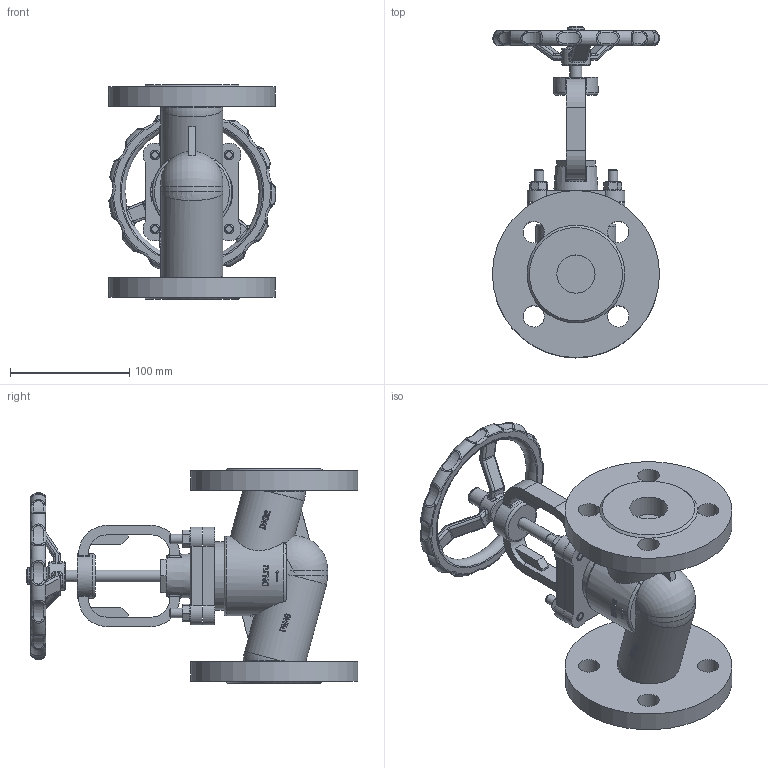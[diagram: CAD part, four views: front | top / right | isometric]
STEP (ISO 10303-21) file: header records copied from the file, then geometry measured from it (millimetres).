
FILE_DESCRIPTION(('STEP AP242'), '1');
FILE_NAME('VSO2130M-F-S 孰囡囗 玎镱痦 DN.ru 捏32 畜40', '2026-04-27T21:04:50', ('DN.ru'), (''), 'C3D Converter', 'C3D Toolkit', '');
FILE_SCHEMA(('AP242_MANAGED_MODEL_BASED_3D_ENGINEERING_MIM_LF { 1 0 10303 442 1 1 4 }'));
Length unit declared in the file: millimetre
Products named in the file (1): VSO2130M-F-S
Bounding box: 140.08 x 278 x 180 mm (x, y, z)
Volume: 1193558.2 mm3; surface area: 185578.8 mm2
Topology: 1 solids, 1 shells, 926 faces, 2365 edges, 1464 vertices
Faces by surface type: plane 272, extrusion 220, cylinder 156, torus 124, bspline 70, sphere 64, cone 20
Full cylindrical faces by diameter (mm): 8 x12, 10 x2, 14.25 x1, 16 x1, 18 x8, 23.75 x1, 32 x2, 37 x1, 52 x2, 57 x1, 67 x1, 140 x2
Entity records: 66776 total; most frequent: CARTESIAN_POINT 39198, ORIENTED_EDGE 4500, DIRECTION 3435, EDGE_CURVE 2250, VERTEX_POINT 1446, AXIS2_PLACEMENT_3D 1263, EDGE_LOOP 1072, B_SPLINE_CURVE_WITH_KNOTS 980
